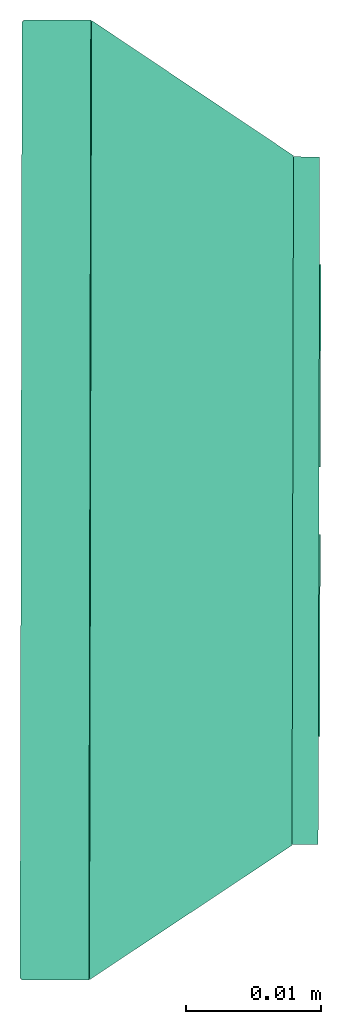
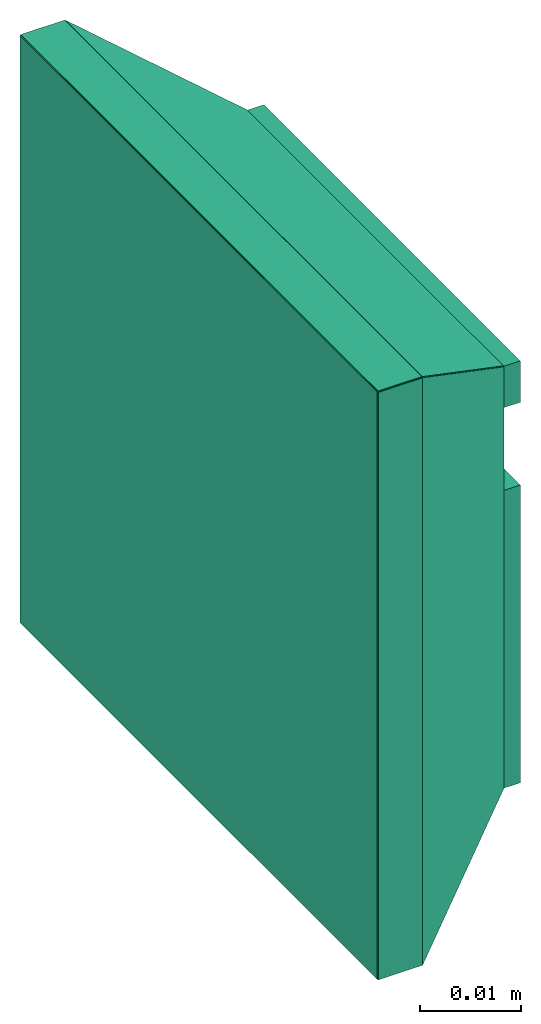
# One storey: 1 flow terminal.
"""IFC2X3 building model written with IfcOpenShell, lengths in millimetres."""

from ifc_helpers import new_model, entity, si_unit, converted_unit, derived_unit, direction, frame, frame_2d, origin, origin_2d_with_axis, place, context, subcontext, project, spatial, polyline, rectangle, outline, extrude, source, transform, mapped, material, type_object, element, save


model = new_model("IFC2X3")

# Units and contexts
model_context = context("Model", 3, precision=0.01, world=frame((0.0, 4.29681676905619e-09, 0.0)), true_north=direction((6.12323399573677e-17, 1.0)))
plan_context = context("Plan", 3, precision=0.01, world=frame((0.0, 4.29681676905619e-09, 0.0)), true_north=direction((6.12323399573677e-17, 1.0)))
body_context = subcontext(model_context, "Body", "Model", "MODEL_VIEW")
ifc_project = project(units=[converted_unit("PLANEANGLEUNIT", "DEGREE", entity("IfcPositiveLengthMeasure", 0.0174532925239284), si_unit("PLANEANGLEUNIT", "RADIAN"), dimensions=[0, 0, 0, 0, 0, 0, 0]), si_unit("AREAUNIT", "SQUARE_METRE"), si_unit("LENGTHUNIT", "METRE", prefix="MILLI"), si_unit("MASSUNIT", "GRAM", prefix="KILO"), si_unit("POWERUNIT", "WATT"), si_unit("PRESSUREUNIT", "PASCAL", prefix="KILO"), si_unit("FORCEUNIT", "NEWTON", prefix="KILO"), si_unit("ELECTRICVOLTAGEUNIT", "VOLT"), si_unit("ELECTRICCURRENTUNIT", "AMPERE"), si_unit("THERMODYNAMICTEMPERATUREUNIT", "DEGREE_CELSIUS"), si_unit("TIMEUNIT", "SECOND"), si_unit("VOLUMEUNIT", "CUBIC_METRE"), derived_unit("LINEARVELOCITYUNIT", [(si_unit("LENGTHUNIT", "METRE"), 1), (si_unit("TIMEUNIT", "SECOND"), -1)]), derived_unit("VOLUMETRICFLOWRATEUNIT", [(si_unit("VOLUMEUNIT", "CUBIC_METRE"), 1), (si_unit("TIMEUNIT", "SECOND"), -1)]), derived_unit("THERMALTRANSMITTANCEUNIT", [(si_unit("POWERUNIT", "WATT"), 1), (si_unit("THERMODYNAMICTEMPERATUREUNIT", "KELVIN"), -1), (si_unit("AREAUNIT", "SQUARE_METRE"), -1)]), derived_unit("SOUNDPRESSUREUNIT", [(si_unit("PRESSUREUNIT", "PASCAL"), 1)])], contexts=[model_context, plan_context])

# Site, building, storey
site_placement = place(None, frame((0.0, -4.29681676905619e-09, 0.0), z_axis=(0.0, 0.0, 1.0), x_axis=(1.0, 0.0, 0.0)))
site = spatial("IfcSite", under=ifc_project, at=site_placement, Name="Default", CompositionType="ELEMENT")
building_placement = place(site_placement, frame((0.0, 4.29681676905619e-09, 0.0), z_axis=(0.0, 0.0, 1.0), x_axis=(1.0, 0.0, 0.0)))
building = spatial("IfcBuilding", under=site, at=building_placement, CompositionType="ELEMENT")
storey_placement = place(building_placement, frame((0.0, 0.0, 210200.0), z_axis=(0.0, 0.0, 1.0), x_axis=(1.0, 0.0, 0.0)))
storey = spatial("IfcBuildingStorey", under=building, at=storey_placement, Name="Nivå F - 0,7 m", CompositionType="ELEMENT", Elevation=210200.0)

# Flow terminal
ifc_material = material(Name="<Unnamed>")
outlet_type = type_object("IfcOutletType", Name="Datauttak dobbel Vegg:Datauttak dobbel Vegg - IKT", PredefinedType="COMMUNICATIONSOUTLET", material=ifc_material)
shared_shape = source(origin(), body_context, "Body", "SweptSolid", [
    extrude(outline(polyline([(-25.5, -9.01387818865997), (25.5, -9.01387818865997), (35.5, 9.01387818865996), (-35.5, 9.01387818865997), (-25.5, -9.01387818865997)])), frame((0.0, 12.4445299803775, 30.4167949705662), z_axis=(0.0, 0.554700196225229, 0.832050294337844), x_axis=(-1.0, 0.0, 0.0)), (0.0, 0.0, 1.0), 0.2),
    extrude(outline(polyline([(-25.5, -9.01387818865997), (25.5, -9.01387818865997), (35.5, 9.01387818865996), (-35.5, 9.01387818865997), (-25.5, -9.01387818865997)])), frame((0.0, 12.5554700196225, -30.5832050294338), z_axis=(0.0, -0.554700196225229, 0.832050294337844), x_axis=(-1.0, 0.0, 0.0)), (0.0, 0.0, 1.0), 0.2),
    extrude(outline(polyline([(-25.1024371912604, -26.6714762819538), (-4.48690906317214, -26.6714762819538), (20.2517246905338, 17.9267299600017), (9.33762156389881, 35.4162226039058), (-25.1024371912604, -26.6714762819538)])), frame((-30.5832050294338, 12.5554700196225, 0.0), z_axis=(0.832050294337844, -0.554700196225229, 0.0), x_axis=(0.485071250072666, 0.727606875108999, 0.485071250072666)), (0.0, 0.0, 1.0), 0.2),
    extrude(outline(polyline([(-25.1024371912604, -26.6714762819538), (-4.48690906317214, -26.6714762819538), (20.2517246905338, 17.9267299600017), (9.33762156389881, 35.4162226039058), (-25.1024371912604, -26.6714762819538)])), frame((30.4167949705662, 12.4445299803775, 0.0), z_axis=(0.832050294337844, 0.554700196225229, 0.0), x_axis=(-0.485071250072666, 0.727606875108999, 0.485071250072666)), (0.0, 0.0, 1.0), 0.2),
    extrude(rectangle(XDim=0.200000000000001, YDim=4.99999999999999, at=frame_2d((2.11636264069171e-15, 0.0), x_axis=(1.0, 0.0))), frame((35.5, 2.5, -35.5)), (0.0, 0.0, 1.0), 70.9999999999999),
    extrude(rectangle(XDim=4.99999999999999, YDim=70.9999999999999, at=frame_2d((-4.44089209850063e-16, 0.0), x_axis=(1.0, 0.0))), frame((0.0, 2.5, -35.6), z_axis=(0.0, 0.0, 1.0), x_axis=(0.0, -1.0, 0.0)), (0.0, 0.0, 1.0), 0.200000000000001),
    extrude(rectangle(XDim=0.200000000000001, YDim=4.99999999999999, at=frame_2d((2.11636264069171e-15, 0.0), x_axis=(1.0, 0.0))), frame((-35.5, 2.5, -35.5)), (0.0, 0.0, 1.0), 70.9999999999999),
    extrude(rectangle(XDim=0.2, YDim=70.9999999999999, at=origin_2d_with_axis()), frame((0.0, 0.0, -35.5), z_axis=(0.0, 0.0, 1.0), x_axis=(0.0, 1.0, 0.0)), (0.0, 0.0, 1.0), 70.9999999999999),
    extrude(rectangle(XDim=4.99999999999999, YDim=70.9999999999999, at=frame_2d((-4.44089209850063e-16, 0.0), x_axis=(1.0, 0.0))), frame((0.0, 2.5, 35.4), z_axis=(0.0, 0.0, 1.0), x_axis=(0.0, -1.0, 0.0)), (0.0, 0.0, 1.0), 0.200000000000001),
    extrude(rectangle(XDim=0.200000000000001, YDim=50.9999999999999, at=frame_2d((-2.11636264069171e-15, -1.77635683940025e-15), x_axis=(1.0, 0.0))), frame((0.0, 20.0, -25.5), z_axis=(0.0, 0.0, 1.0), x_axis=(0.0, 1.0, 0.0)), (0.0, 0.0, 1.0), 50.9999999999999),
    extrude(rectangle(XDim=0.200000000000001, YDim=15.0, at=frame_2d((-2.11636264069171e-15, 0.0), x_axis=(1.0, 0.0))), frame((-10.0, 22.0099999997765, -6.49999999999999), z_axis=(0.0, 0.0, 1.0), x_axis=(0.0, 1.0, 0.0)), (0.0, 0.0, 1.0), 15.0),
    extrude(rectangle(XDim=0.200000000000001, YDim=15.0, at=frame_2d((-2.11636264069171e-15, 0.0), x_axis=(1.0, 0.0))), frame((10.0, 22.0099999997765, -6.49999999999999), z_axis=(0.0, 0.0, 1.0), x_axis=(0.0, 1.0, 0.0)), (0.0, 0.0, 1.0), 15.0),
    extrude(rectangle(XDim=50.9999999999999, YDim=2.0, at=frame_2d((0.0, 2.1094237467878e-15), x_axis=(1.0, 0.0))), frame((0.0, 21.0, 20.5)), (0.0, 0.0, 1.0), 4.99999999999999),
    extrude(rectangle(XDim=50.9999999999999, YDim=2.0, at=frame_2d((0.0, 2.1094237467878e-15), x_axis=(1.0, 0.0))), frame((0.0, 21.0, -25.5)), (0.0, 0.0, 1.0), 36.0),
])
flow_terminal_placement = place(storey_placement, frame((1130524.75888326, 467953.999999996, 200.0), z_axis=(0.0, 0.0, 1.0), x_axis=(-0.00212393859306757, -0.999997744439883, 0.0)))
element("IfcFlowTerminal", 1, at=flow_terminal_placement, inside=storey, type_object=outlet_type, material=ifc_material, Name="Datauttak dobbel Vegg:Datauttak dobbel Vegg - IKT", ObjectType="Datauttak dobbel Vegg:Datauttak dobbel Vegg - IKT", context=body_context, shape_type="MappedRepresentation", body=[
    mapped(shared_shape, transform((0.0, 0.0, 0.0), scale=1.0)),
])

save(model, "model.ifc")
